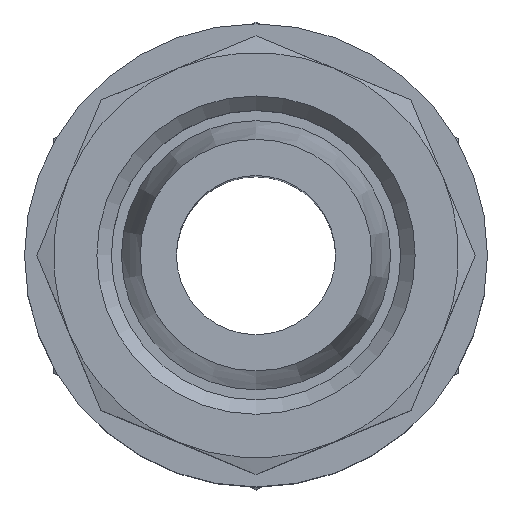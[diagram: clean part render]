
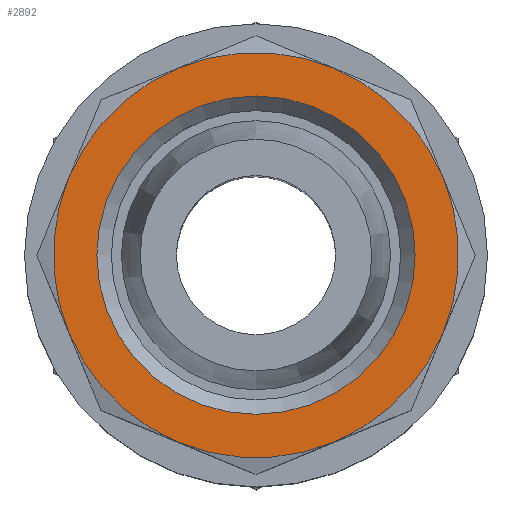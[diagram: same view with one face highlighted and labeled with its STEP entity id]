
A CAD part, top view. The second image highlights one B-rep face of the part: STEP entity #2892.
In plain terms, the highlighted planar face has unit normal (0, 0, 1) as drawn and (0, 1, 0) by its records, which use the part's own axes.
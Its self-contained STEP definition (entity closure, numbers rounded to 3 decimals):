
#1336=PLANE('',#2779);
#1485=ORIENTED_EDGE('',*,*,#1781,.F.);
#1486=ORIENTED_EDGE('',*,*,#1782,.F.);
#1487=ORIENTED_EDGE('',*,*,#1783,.F.);
#1488=ORIENTED_EDGE('',*,*,#1784,.F.);
#1489=ORIENTED_EDGE('',*,*,#1785,.F.);
#1490=ORIENTED_EDGE('',*,*,#1786,.F.);
#1491=ORIENTED_EDGE('',*,*,#1787,.F.);
#1492=ORIENTED_EDGE('',*,*,#1788,.F.);
#1493=ORIENTED_EDGE('',*,*,#1780,.T.);
#1616=CIRCLE('',#2778,5.5);
#1617=CIRCLE('',#2780,7.);
#1618=CIRCLE('',#2781,7.);
#1619=CIRCLE('',#2782,7.);
#1620=CIRCLE('',#2783,7.);
#1621=CIRCLE('',#2784,7.);
#1622=CIRCLE('',#2785,7.);
#1623=CIRCLE('',#2786,7.);
#1624=CIRCLE('',#2787,7.);
#1681=VERTEX_POINT('',#2563);
#1682=VERTEX_POINT('',#2566);
#1683=VERTEX_POINT('',#2567);
#1684=VERTEX_POINT('',#2569);
#1685=VERTEX_POINT('',#2571);
#1686=VERTEX_POINT('',#2573);
#1687=VERTEX_POINT('',#2575);
#1688=VERTEX_POINT('',#2577);
#1689=VERTEX_POINT('',#2579);
#1780=EDGE_CURVE('',#1681,#1681,#1616,.T.);
#1781=EDGE_CURVE('',#1682,#1683,#1617,.T.);
#1782=EDGE_CURVE('',#1684,#1682,#1618,.T.);
#1783=EDGE_CURVE('',#1685,#1684,#1619,.T.);
#1784=EDGE_CURVE('',#1686,#1685,#1620,.T.);
#1785=EDGE_CURVE('',#1687,#1686,#1621,.T.);
#1786=EDGE_CURVE('',#1688,#1687,#1622,.T.);
#1787=EDGE_CURVE('',#1689,#1688,#1623,.T.);
#1788=EDGE_CURVE('',#1683,#1689,#1624,.T.);
#1900=EDGE_LOOP('',(#1485,#1486,#1487,#1488,#1489,#1490,#1491,#1492));
#1901=EDGE_LOOP('',(#1493));
#2004=FACE_BOUND('',#1900,.T.);
#2005=FACE_BOUND('',#1901,.T.);
#2262=DIRECTION('',(0.,-1.,0.));
#2263=DIRECTION('',(0.,0.,-5.5));
#2264=DIRECTION('',(0.,1.,0.));
#2265=DIRECTION('',(1.,0.,0.));
#2266=DIRECTION('',(0.,-1.,0.));
#2267=DIRECTION('',(0.,0.,7.));
#2268=DIRECTION('',(0.,-1.,0.));
#2269=DIRECTION('',(0.,0.,7.));
#2270=DIRECTION('',(0.,-1.,0.));
#2271=DIRECTION('',(0.,0.,7.));
#2272=DIRECTION('',(0.,-1.,0.));
#2273=DIRECTION('',(0.,0.,7.));
#2274=DIRECTION('',(0.,-1.,0.));
#2275=DIRECTION('',(0.,0.,7.));
#2276=DIRECTION('',(0.,-1.,0.));
#2277=DIRECTION('',(0.,0.,7.));
#2278=DIRECTION('',(0.,-1.,0.));
#2279=DIRECTION('',(0.,0.,7.));
#2280=DIRECTION('',(0.,-1.,0.));
#2281=DIRECTION('',(0.,0.,7.));
#2563=CARTESIAN_POINT('',(26.989,28.095,-5.5));
#2564=CARTESIAN_POINT('',(26.989,28.095,0.));
#2565=CARTESIAN_POINT('',(29.668,28.095,6.467));
#2566=CARTESIAN_POINT('',(20.522,28.095,-2.679));
#2567=CARTESIAN_POINT('',(24.31,28.095,-6.467));
#2568=CARTESIAN_POINT('',(26.989,28.095,0.));
#2569=CARTESIAN_POINT('',(20.522,28.095,2.679));
#2570=CARTESIAN_POINT('',(26.989,28.095,0.));
#2571=CARTESIAN_POINT('',(24.31,28.095,6.467));
#2572=CARTESIAN_POINT('',(26.989,28.095,0.));
#2573=CARTESIAN_POINT('',(29.668,28.095,6.467));
#2574=CARTESIAN_POINT('',(26.989,28.095,0.));
#2575=CARTESIAN_POINT('',(33.456,28.095,2.679));
#2576=CARTESIAN_POINT('',(26.989,28.095,0.));
#2577=CARTESIAN_POINT('',(33.456,28.095,-2.679));
#2578=CARTESIAN_POINT('',(26.989,28.095,0.));
#2579=CARTESIAN_POINT('',(29.668,28.095,-6.467));
#2580=CARTESIAN_POINT('',(26.989,28.095,0.));
#2581=CARTESIAN_POINT('',(26.989,28.095,0.));
#2778=AXIS2_PLACEMENT_3D('',#2564,#2262,#2263);
#2779=AXIS2_PLACEMENT_3D('',#2565,#2264,#2265);
#2780=AXIS2_PLACEMENT_3D('',#2568,#2266,#2267);
#2781=AXIS2_PLACEMENT_3D('',#2570,#2268,#2269);
#2782=AXIS2_PLACEMENT_3D('',#2572,#2270,#2271);
#2783=AXIS2_PLACEMENT_3D('',#2574,#2272,#2273);
#2784=AXIS2_PLACEMENT_3D('',#2576,#2274,#2275);
#2785=AXIS2_PLACEMENT_3D('',#2578,#2276,#2277);
#2786=AXIS2_PLACEMENT_3D('',#2580,#2278,#2279);
#2787=AXIS2_PLACEMENT_3D('',#2581,#2280,#2281);
#2892=ADVANCED_FACE('',(#2004,#2005),#1336,.T.);
